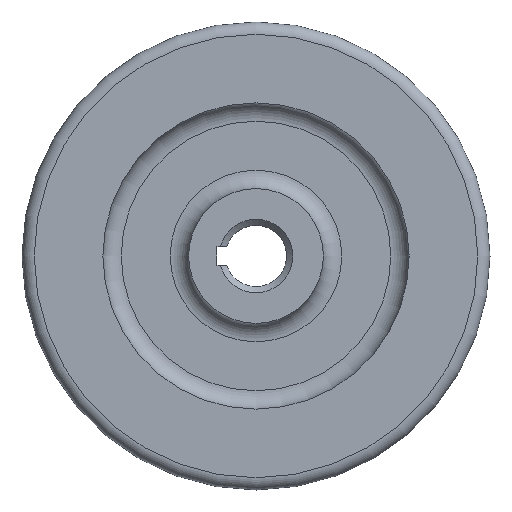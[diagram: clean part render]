
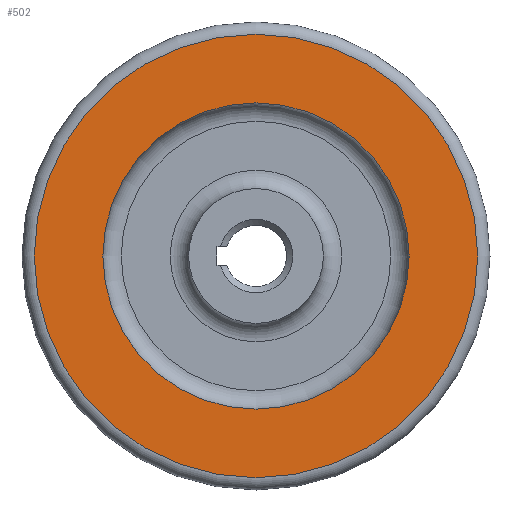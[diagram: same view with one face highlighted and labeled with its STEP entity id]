
A CAD part, left-side view. The second image highlights one B-rep face of the part: STEP entity #502.
In plain terms, the highlighted planar face has unit normal (-1, 0, 0).
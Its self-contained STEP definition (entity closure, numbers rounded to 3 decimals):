
#28=FACE_BOUND('',#134,.T.);
#83=PLANE('',#571);
#99=FACE_OUTER_BOUND('',#133,.T.);
#133=EDGE_LOOP('',(#395));
#134=EDGE_LOOP('',(#396));
#168=CIRCLE('',#570,25.);
#169=CIRCLE('',#572,36.2);
#230=VERTEX_POINT('',#884);
#231=VERTEX_POINT('',#888);
#290=EDGE_CURVE('',#230,#230,#168,.T.);
#291=EDGE_CURVE('',#231,#231,#169,.T.);
#395=ORIENTED_EDGE('',*,*,#291,.F.);
#396=ORIENTED_EDGE('',*,*,#290,.T.);
#502=ADVANCED_FACE('',(#99,#28),#83,.T.);
#570=AXIS2_PLACEMENT_3D('',#886,#694,#695);
#571=AXIS2_PLACEMENT_3D('',#887,#696,#697);
#572=AXIS2_PLACEMENT_3D('',#889,#698,#699);
#694=DIRECTION('center_axis',(1.,0.,0.));
#695=DIRECTION('ref_axis',(0.,0.,-1.));
#696=DIRECTION('center_axis',(-1.,0.,0.));
#697=DIRECTION('ref_axis',(0.,0.,1.));
#698=DIRECTION('center_axis',(1.,0.,0.));
#699=DIRECTION('ref_axis',(0.,0.,-1.));
#884=CARTESIAN_POINT('',(-9.,-25.,0.));
#886=CARTESIAN_POINT('Origin',(-9.,0.,0.));
#887=CARTESIAN_POINT('Origin',(-9.,36.2,0.));
#888=CARTESIAN_POINT('',(-9.,0.,36.2));
#889=CARTESIAN_POINT('Origin',(-9.,0.,0.));
